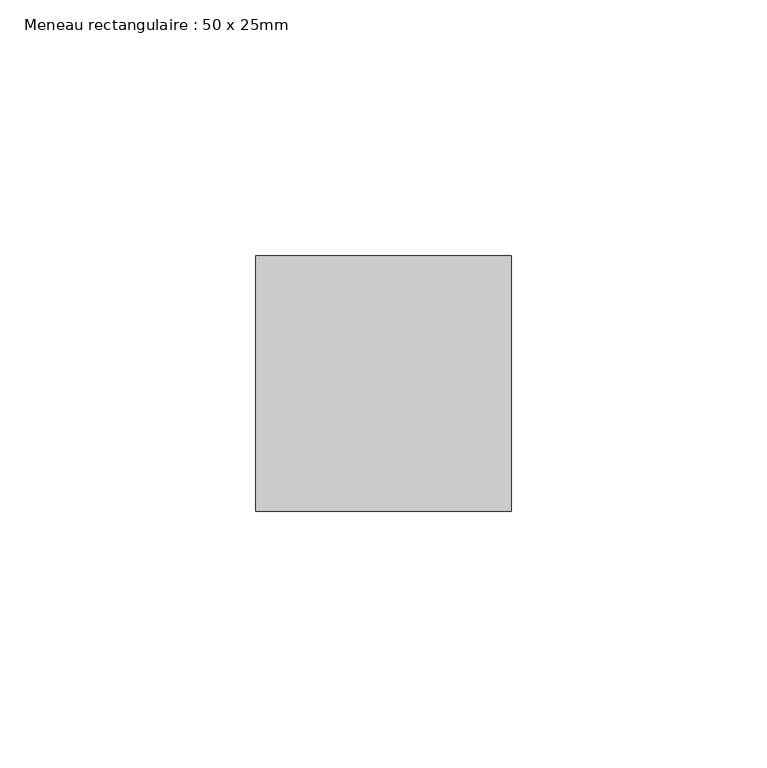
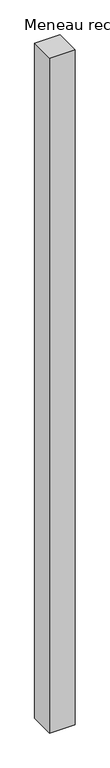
"""IFC4 building model written with IfcOpenShell, lengths in millimetres: member geometry, Meneau rectangulaire : 50 x 25mm."""

from ifc_helpers import new_model, si_unit, frame, origin, place, context, project, spatial, polyline, outline, extrude, source, transform, mapped, element, save


def meneau_rectangulaire_50_x_25mm_32262c2d(model_context):
    return source(origin(), model_context, "Body", "SweptSolid", [
        extrude(outline(polyline([(0.0, 0.0), (0.0, -50.0), (-50.0, -50.0), (-50.0, 0.0), (0.0, 0.0)])), frame((0.0, 0.0, -1394.720038), z_axis=(0.0, 0.0, 1.0), x_axis=(1.0, 0.0, 0.0)), (0.0, 0.0, 1.0), 1394.720038),
    ])


if __name__ == "__main__":
    model = new_model("IFC4")
    model_context = context("Model", 3, world=origin())
    ifc_project = project(units=[si_unit("LENGTHUNIT", "METRE", prefix="MILLI")], contexts=[model_context])
    site = spatial("IfcSite", under=ifc_project)
    building = spatial("IfcBuilding", under=site)
    placement = place(None, origin())
    meneau_rectangulaire_50_x_25mm_shape = meneau_rectangulaire_50_x_25mm_32262c2d(model_context)
    element("IfcMember", 1, ObjectType="Meneau rectangulaire : 50 x 25mm", at=placement, inside=building, context=model_context, shape_type="MappedRepresentation", body=[
        mapped(meneau_rectangulaire_50_x_25mm_shape, transform((0.0, 0.0, 0.0), x_axis=(1.0, 0.0, 0.0), y_axis=(0.0, 1.0, 0.0), z_axis=(0.0, 0.0, 1.0))),
    ])
    save(model, "model.ifc")
